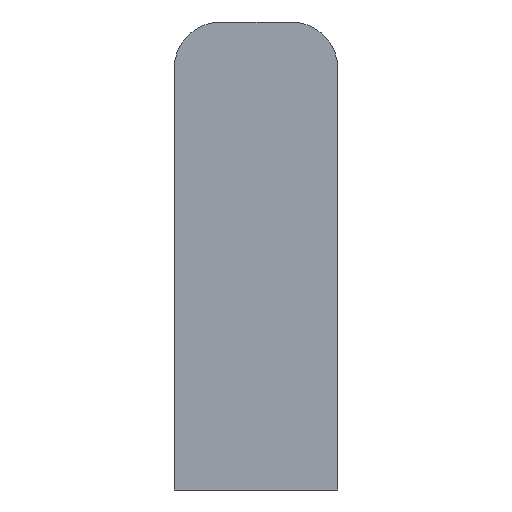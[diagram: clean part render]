
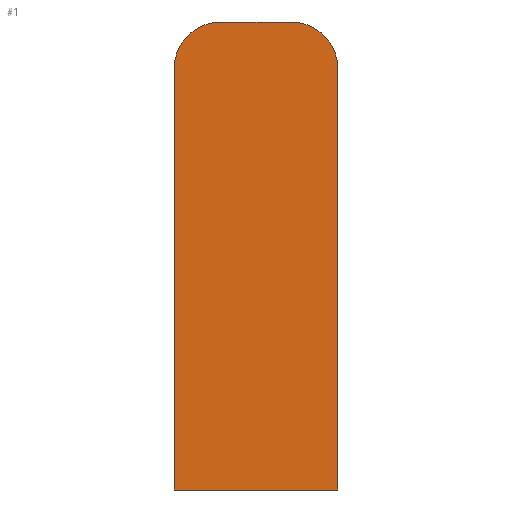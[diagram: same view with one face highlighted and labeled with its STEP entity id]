
A CAD part, front view. The second image highlights one B-rep face of the part: STEP entity #1.
In plain terms, the highlighted planar face has unit normal (0, -1, 0).
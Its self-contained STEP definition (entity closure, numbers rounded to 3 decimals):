
#1 = ADVANCED_FACE ( 'NONE', ( #201 ), #144, .F. ) ;
#10 = EDGE_CURVE ( 'NONE', #166, #160, #210, .T. ) ;
#12 = EDGE_CURVE ( 'NONE', #161, #167, #196, .T. ) ;
#17 = EDGE_CURVE ( 'NONE', #162, #145, #265, .T. ) ;
#22 = AXIS2_PLACEMENT_3D ( 'NONE', #148, #159, #158 ) ;
#23 = AXIS2_PLACEMENT_3D ( 'NONE', #72, #80, #81 ) ;
#26 = AXIS2_PLACEMENT_3D ( 'NONE', #76, #85, #86 ) ;
#29 = EDGE_CURVE ( 'NONE', #145, #161, #246, .T. ) ;
#38 = EDGE_CURVE ( 'NONE', #160, #162, #177, .T. ) ;
#40 = EDGE_CURVE ( 'NONE', #167, #166, #251, .T. ) ;
#54 = CARTESIAN_POINT ( 'NONE',  ( -5.25, 0., -16.5 ) ) ;
#55 = CARTESIAN_POINT ( 'NONE',  ( 2.25, 0., 13.5 ) ) ;
#56 = DIRECTION ( 'NONE',  ( -1., 0., 0. ) ) ;
#57 = CARTESIAN_POINT ( 'NONE',  ( 5.25, 0., -16.5 ) ) ;
#58 = DIRECTION ( 'NONE',  ( 0., 0., 1. ) ) ;
#62 = DIRECTION ( 'NONE',  ( 0., 0., -1. ) ) ;
#65 = CARTESIAN_POINT ( 'NONE',  ( 5.25, 0., -16.5 ) ) ;
#68 = DIRECTION ( 'NONE',  ( 1., 0., 0. ) ) ;
#72 = CARTESIAN_POINT ( 'NONE',  ( -2.25, 0., 10.5 ) ) ;
#76 = CARTESIAN_POINT ( 'NONE',  ( 2.25, 0., 10.5 ) ) ;
#80 = DIRECTION ( 'NONE',  ( 0., -1., 0. ) ) ;
#81 = DIRECTION ( 'NONE',  ( -1., 0., 0. ) ) ;
#85 = DIRECTION ( 'NONE',  ( 0., -1., 0. ) ) ;
#86 = DIRECTION ( 'NONE',  ( -1., 0., 0. ) ) ;
#92 = CARTESIAN_POINT ( 'NONE',  ( 5.25, 0., -16.5 ) ) ;
#97 = CARTESIAN_POINT ( 'NONE',  ( -5.25, 0., -16.5 ) ) ;
#98 = CARTESIAN_POINT ( 'NONE',  ( -2.25, 0., 13.5 ) ) ;
#99 = CARTESIAN_POINT ( 'NONE',  ( -5.25, 0., 10.5 ) ) ;
#102 = CARTESIAN_POINT ( 'NONE',  ( 2.25, 0., 13.5 ) ) ;
#103 = CARTESIAN_POINT ( 'NONE',  ( 5.25, 0., 10.5 ) ) ;
#144 = PLANE ( 'NONE',  #22 ) ;
#145 = VERTEX_POINT ( 'NONE', #97 ) ;
#148 = CARTESIAN_POINT ( 'NONE',  ( 0., 0., -1.5 ) ) ;
#158 = DIRECTION ( 'NONE',  ( -1., 0., 0. ) ) ;
#159 = DIRECTION ( 'NONE',  ( 0., 1., 0. ) ) ;
#160 = VERTEX_POINT ( 'NONE', #98 ) ;
#161 = VERTEX_POINT ( 'NONE', #92 ) ;
#162 = VERTEX_POINT ( 'NONE', #99 ) ;
#166 = VERTEX_POINT ( 'NONE', #102 ) ;
#167 = VERTEX_POINT ( 'NONE', #103 ) ;
#177 = CIRCLE ( 'NONE', #23, 3. ) ;
#189 = ORIENTED_EDGE ( 'NONE', *, *, #29, .T. ) ;
#192 = ORIENTED_EDGE ( 'NONE', *, *, #10, .T. ) ;
#196 = LINE ( 'NONE', #57, #205 ) ;
#200 = EDGE_LOOP ( 'NONE', ( #223, #264, #192, #257, #208, #189 ) ) ;
#201 = FACE_OUTER_BOUND ( 'NONE', #200, .T. ) ;
#205 = VECTOR ( 'NONE', #58, 1000. ) ;
#208 = ORIENTED_EDGE ( 'NONE', *, *, #17, .T. ) ;
#210 = LINE ( 'NONE', #55, #241 ) ;
#223 = ORIENTED_EDGE ( 'NONE', *, *, #12, .T. ) ;
#241 = VECTOR ( 'NONE', #56, 1000. ) ;
#245 = VECTOR ( 'NONE', #68, 1000. ) ;
#246 = LINE ( 'NONE', #65, #245 ) ;
#248 = VECTOR ( 'NONE', #62, 1000. ) ;
#251 = CIRCLE ( 'NONE', #26, 3. ) ;
#257 = ORIENTED_EDGE ( 'NONE', *, *, #38, .T. ) ;
#264 = ORIENTED_EDGE ( 'NONE', *, *, #40, .T. ) ;
#265 = LINE ( 'NONE', #54, #248 ) ;
